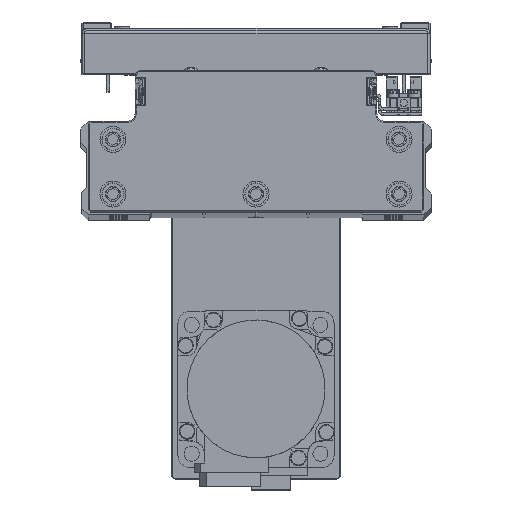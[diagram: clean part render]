
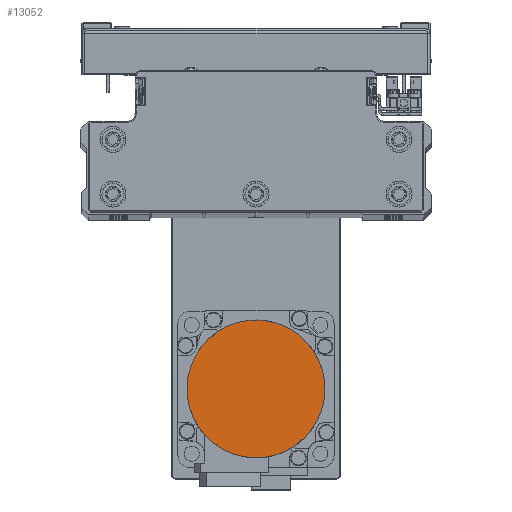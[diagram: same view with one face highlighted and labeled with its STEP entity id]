
A CAD part, top view. The second image highlights one B-rep face of the part: STEP entity #13052.
In plain terms, the highlighted planar face has unit normal (0, 0, 1) as drawn and (0, 0, -1) by its records, which use the part's own axes.
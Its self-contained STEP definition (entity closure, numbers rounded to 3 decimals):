
#197 = DIRECTION ( 'NONE',  ( 0., 0., 1. ) ) ;
#2803 = CARTESIAN_POINT ( 'NONE',  ( 25.652, 6.871, -109.7 ) ) ;
#3024 = CARTESIAN_POINT ( 'NONE',  ( 1.734, 26.5, -109.7 ) ) ;
#3132 = CARTESIAN_POINT ( 'NONE',  ( -13.28, -22.998, -109.7 ) ) ;
#3242 = CARTESIAN_POINT ( 'NONE',  ( -25.147, 8.539, -109.7 ) ) ;
#3351 = CARTESIAN_POINT ( 'NONE',  ( 17.512, -19.965, -109.7 ) ) ;
#3593 = FACE_OUTER_BOUND ( 'NONE', #5655, .T. ) ;
#5655 = EDGE_LOOP ( 'NONE', ( #5828, #8058 ) ) ;
#5828 = ORIENTED_EDGE ( 'NONE', *, *, #31570, .F. ) ;
#6126 = CARTESIAN_POINT ( 'NONE',  ( -26.5, 0., -109.7 ) ) ;
#6192 = CARTESIAN_POINT ( 'NONE',  ( 26.5, 0., -109.7 ) ) ;
#6416 = CARTESIAN_POINT ( 'NONE',  ( 8.539, 25.147, -109.7 ) ) ;
#6526 = CARTESIAN_POINT ( 'NONE',  ( -19.965, -17.512, -109.7 ) ) ;
#6636 = CARTESIAN_POINT ( 'NONE',  ( -21.07, 16.165, -109.7 ) ) ;
#6747 = CARTESIAN_POINT ( 'NONE',  ( 11.744, -23.819, -109.7 ) ) ;
#8058 = ORIENTED_EDGE ( 'NONE', *, *, #19073, .F. ) ;
#9795 = CARTESIAN_POINT ( 'NONE',  ( 16.165, 21.07, -109.7 ) ) ;
#9906 = CARTESIAN_POINT ( 'NONE',  ( -23.819, -11.744, -109.7 ) ) ;
#10017 = CARTESIAN_POINT ( 'NONE',  ( -16.165, 21.07, -109.7 ) ) ;
#10128 = CARTESIAN_POINT ( 'NONE',  ( 3.469, -26.329, -109.7 ) ) ;
#10349 = CARTESIAN_POINT ( 'NONE',  ( 26.329, -3.469, -109.7 ) ) ;
#12928 = B_SPLINE_CURVE_WITH_KNOTS ( 'NONE', 3,
 ( #6192, #19950, #33721, #2803, #16556, #30334, #44083, #13160, #26943, #40705, #9795, #23562, #37326, #6416, #20174, #33940, #3024, #16775, #30551, #44305, #13379, #27169, #40937, #10017, #23795, #37543, #6636, #20397, #34155, #3242, #16995, #30773, #44539, #13613 ),
 .UNSPECIFIED., .F., .F.,
 ( 4, 2, 2, 2, 2, 2, 2, 2, 2, 2, 2, 2, 2, 2, 2, 2, 4 ),
 ( 0., 0.062, 0.125, 0.187, 0.25, 0.312, 0.375, 0.437, 0.5, 0.562, 0.625, 0.687, 0.75, 0.813, 0.875, 0.938, 1. ),
 .UNSPECIFIED. ) ;
#13052 = ADVANCED_FACE ( 'NONE', ( #3593 ), #17346, .F. ) ;
#13160 = CARTESIAN_POINT ( 'NONE',  ( 21.07, 16.165, -109.7 ) ) ;
#13267 = CARTESIAN_POINT ( 'NONE',  ( -26.329, -3.469, -109.7 ) ) ;
#13379 = CARTESIAN_POINT ( 'NONE',  ( -8.539, 25.147, -109.7 ) ) ;
#13495 = CARTESIAN_POINT ( 'NONE',  ( -3.469, -26.329, -109.7 ) ) ;
#13613 = CARTESIAN_POINT ( 'NONE',  ( -26.5, 0., -109.7 ) ) ;
#13731 = CARTESIAN_POINT ( 'NONE',  ( 23.819, -11.744, -109.7 ) ) ;
#13956 = DIRECTION ( 'NONE',  ( 1., 0., 0. ) ) ;
#16556 = CARTESIAN_POINT ( 'NONE',  ( 25.147, 8.539, -109.7 ) ) ;
#16775 = CARTESIAN_POINT ( 'NONE',  ( -1.734, 26.5, -109.7 ) ) ;
#16885 = CARTESIAN_POINT ( 'NONE',  ( -11.744, -23.819, -109.7 ) ) ;
#16995 = CARTESIAN_POINT ( 'NONE',  ( -25.652, 6.871, -109.7 ) ) ;
#17110 = CARTESIAN_POINT ( 'NONE',  ( 19.965, -17.512, -109.7 ) ) ;
#17238 = CARTESIAN_POINT ( 'NONE',  ( 26.5, 0., -109.7 ) ) ;
#17346 = PLANE ( 'NONE',  #39918 ) ;
#19073 = EDGE_CURVE ( 'NONE', #33089, #25001, #37511, .T. ) ;
#19950 = CARTESIAN_POINT ( 'NONE',  ( 26.5, 1.734, -109.7 ) ) ;
#20174 = CARTESIAN_POINT ( 'NONE',  ( 6.871, 25.652, -109.7 ) ) ;
#20286 = CARTESIAN_POINT ( 'NONE',  ( -17.512, -19.965, -109.7 ) ) ;
#20397 = CARTESIAN_POINT ( 'NONE',  ( -22.998, 13.28, -109.7 ) ) ;
#20506 = CARTESIAN_POINT ( 'NONE',  ( 13.28, -22.998, -109.7 ) ) ;
#23562 = CARTESIAN_POINT ( 'NONE',  ( 13.28, 22.998, -109.7 ) ) ;
#23681 = CARTESIAN_POINT ( 'NONE',  ( -22.998, -13.28, -109.7 ) ) ;
#23795 = CARTESIAN_POINT ( 'NONE',  ( -17.512, 19.965, -109.7 ) ) ;
#23901 = CARTESIAN_POINT ( 'NONE',  ( 6.871, -25.652, -109.7 ) ) ;
#24121 = CARTESIAN_POINT ( 'NONE',  ( 26.5, -1.734, -109.7 ) ) ;
#25001 = VERTEX_POINT ( 'NONE', #17238 ) ;
#26483 = CARTESIAN_POINT ( 'NONE',  ( 22.998, -13.28, -109.7 ) ) ;
#26943 = CARTESIAN_POINT ( 'NONE',  ( 19.965, 17.512, -109.7 ) ) ;
#27051 = CARTESIAN_POINT ( 'NONE',  ( -25.652, -6.871, -109.7 ) ) ;
#27169 = CARTESIAN_POINT ( 'NONE',  ( -11.744, 23.819, -109.7 ) ) ;
#27288 = CARTESIAN_POINT ( 'NONE',  ( -1.734, -26.5, -109.7 ) ) ;
#27504 = CARTESIAN_POINT ( 'NONE',  ( 25.147, -8.539, -109.7 ) ) ;
#30334 = CARTESIAN_POINT ( 'NONE',  ( 23.819, 11.744, -109.7 ) ) ;
#30443 = CARTESIAN_POINT ( 'NONE',  ( -26.5, 0., -109.7 ) ) ;
#30551 = CARTESIAN_POINT ( 'NONE',  ( -3.469, 26.329, -109.7 ) ) ;
#30659 = CARTESIAN_POINT ( 'NONE',  ( -8.539, -25.147, -109.7 ) ) ;
#30773 = CARTESIAN_POINT ( 'NONE',  ( -26.329, 3.469, -109.7 ) ) ;
#30888 = CARTESIAN_POINT ( 'NONE',  ( 21.07, -16.165, -109.7 ) ) ;
#31129 = CARTESIAN_POINT ( 'NONE',  ( 0., 0., -109.7 ) ) ;
#31570 = EDGE_CURVE ( 'NONE', #25001, #33089, #12928, .T. ) ;
#33089 = VERTEX_POINT ( 'NONE', #6126 ) ;
#33721 = CARTESIAN_POINT ( 'NONE',  ( 26.329, 3.469, -109.7 ) ) ;
#33940 = CARTESIAN_POINT ( 'NONE',  ( 3.469, 26.329, -109.7 ) ) ;
#34048 = CARTESIAN_POINT ( 'NONE',  ( -16.165, -21.07, -109.7 ) ) ;
#34155 = CARTESIAN_POINT ( 'NONE',  ( -23.819, 11.744, -109.7 ) ) ;
#34272 = CARTESIAN_POINT ( 'NONE',  ( 16.165, -21.07, -109.7 ) ) ;
#37326 = CARTESIAN_POINT ( 'NONE',  ( 11.744, 23.819, -109.7 ) ) ;
#37433 = CARTESIAN_POINT ( 'NONE',  ( -21.07, -16.165, -109.7 ) ) ;
#37511 = B_SPLINE_CURVE_WITH_KNOTS ( 'NONE', 3,
 ( #30443, #44195, #13267, #27051, #40815, #9906, #23681, #37433, #6526, #20286, #34048, #3132, #16885, #30659, #44415, #13495, #27288, #41042, #10128, #23901, #37652, #6747, #20506, #34272, #3351, #17110, #30888, #26483, #13731, #27504, #41266, #10349, #24121, #37870 ),
 .UNSPECIFIED., .F., .F.,
 ( 4, 2, 2, 2, 2, 2, 2, 2, 2, 2, 2, 2, 2, 2, 2, 2, 4 ),
 ( 0., 0.063, 0.125, 0.188, 0.25, 0.312, 0.375, 0.437, 0.5, 0.562, 0.625, 0.687, 0.75, 0.813, 0.875, 0.938, 1. ),
 .UNSPECIFIED. ) ;
#37543 = CARTESIAN_POINT ( 'NONE',  ( -19.965, 17.512, -109.7 ) ) ;
#37652 = CARTESIAN_POINT ( 'NONE',  ( 8.539, -25.147, -109.7 ) ) ;
#37870 = CARTESIAN_POINT ( 'NONE',  ( 26.5, 0., -109.7 ) ) ;
#39918 = AXIS2_PLACEMENT_3D ( 'NONE', #31129, #197, #13956 ) ;
#40705 = CARTESIAN_POINT ( 'NONE',  ( 17.512, 19.965, -109.7 ) ) ;
#40815 = CARTESIAN_POINT ( 'NONE',  ( -25.147, -8.539, -109.7 ) ) ;
#40937 = CARTESIAN_POINT ( 'NONE',  ( -13.28, 22.998, -109.7 ) ) ;
#41042 = CARTESIAN_POINT ( 'NONE',  ( 1.734, -26.5, -109.7 ) ) ;
#41266 = CARTESIAN_POINT ( 'NONE',  ( 25.652, -6.871, -109.7 ) ) ;
#44083 = CARTESIAN_POINT ( 'NONE',  ( 22.998, 13.28, -109.7 ) ) ;
#44195 = CARTESIAN_POINT ( 'NONE',  ( -26.5, -1.734, -109.7 ) ) ;
#44305 = CARTESIAN_POINT ( 'NONE',  ( -6.871, 25.652, -109.7 ) ) ;
#44415 = CARTESIAN_POINT ( 'NONE',  ( -6.871, -25.652, -109.7 ) ) ;
#44539 = CARTESIAN_POINT ( 'NONE',  ( -26.5, 1.734, -109.7 ) ) ;
